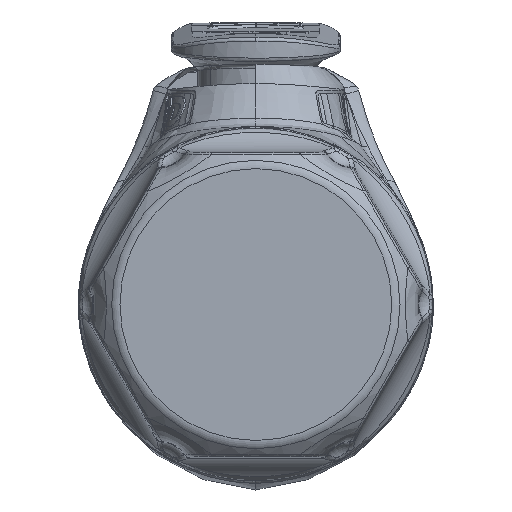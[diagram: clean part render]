
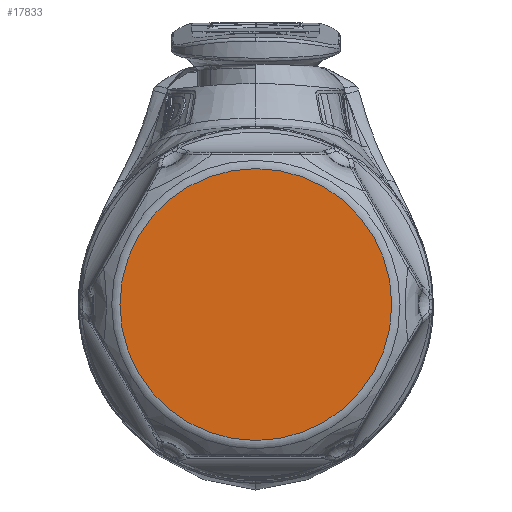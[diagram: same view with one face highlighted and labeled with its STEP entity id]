
A CAD part, front view. The second image highlights one B-rep face of the part: STEP entity #17833.
In plain terms, the highlighted planar face has unit normal (0, -1, 0).
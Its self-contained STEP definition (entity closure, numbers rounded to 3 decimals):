
#12657 = AXIS2_PLACEMENT_3D ( 'NONE', #17856, #47151, #79274 ) ;
#13598 = VERTEX_POINT ( 'NONE', #43860 ) ;
#15521 = EDGE_CURVE ( 'NONE', #13598, #13598, #49642, .T. ) ;
#17833 = ADVANCED_FACE ( 'NONE', ( #90807 ), #54357, .T. ) ;
#17856 = CARTESIAN_POINT ( 'NONE',  ( 0., -58.7, 0. ) ) ;
#22287 = ORIENTED_EDGE ( 'NONE', *, *, #15521, .T. ) ;
#28218 = EDGE_LOOP ( 'NONE', ( #22287 ) ) ;
#30796 = CARTESIAN_POINT ( 'NONE',  ( 0., -58.7, 0. ) ) ;
#43860 = CARTESIAN_POINT ( 'NONE',  ( 11.016, -58.7, 0. ) ) ;
#47151 = DIRECTION ( 'NONE',  ( 0., -1., 0. ) ) ;
#49642 = CIRCLE ( 'NONE', #64975, 11.016 ) ;
#54357 = PLANE ( 'NONE',  #12657 ) ;
#60053 = DIRECTION ( 'NONE',  ( 0., -1., 0. ) ) ;
#64975 = AXIS2_PLACEMENT_3D ( 'NONE', #30796, #60053, #67728 ) ;
#67728 = DIRECTION ( 'NONE',  ( 1., 0., 0. ) ) ;
#79274 = DIRECTION ( 'NONE',  ( 0., 0., -1. ) ) ;
#90807 = FACE_OUTER_BOUND ( 'NONE', #28218, .T. ) ;
